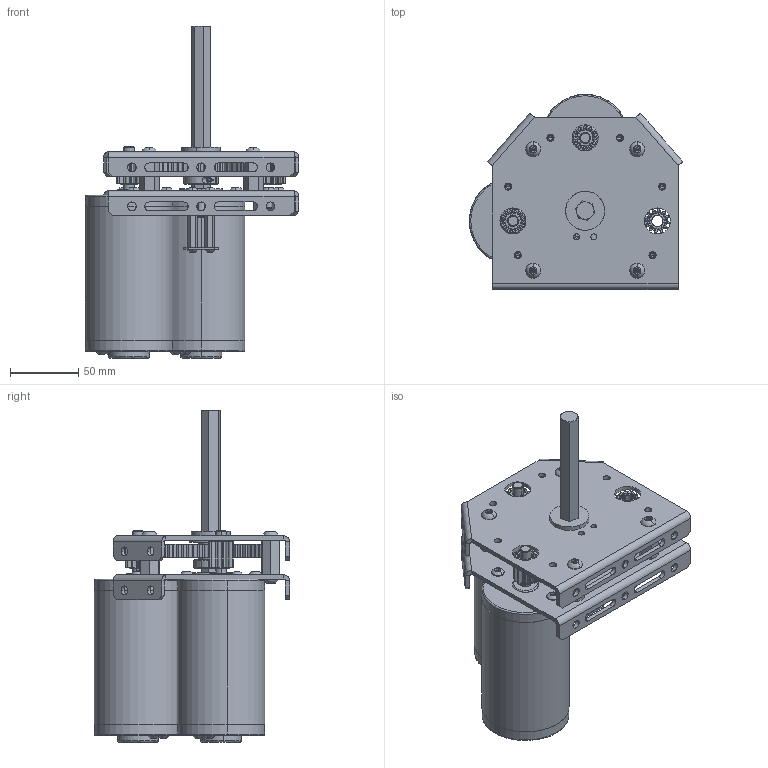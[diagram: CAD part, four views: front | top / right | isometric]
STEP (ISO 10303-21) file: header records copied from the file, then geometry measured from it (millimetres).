
FILE_DESCRIPTION (( 'STEP AP203' ), '1' );
FILE_NAME ('217-2748.20121217.STEP', '2012-12-17T15:44:25', ( 'svradm' ), ( 'Microsoft' ), 'SwSTEP 2.0', 'SolidWorks 2012', '' );
FILE_SCHEMA (( 'CONFIG_CONTROL_DESIGN' ));
Length unit declared in the file: inch
Products named in the file (16): 217-2748.20121217; 217-2716-001_72t; SBS1_SBS0832-0500SS; 217-2428-005 Rev1; 217-2745-002 Rev1; 217-2614-002_98430A132; SBS1_SBS2520-0500SS; 217-2617-002 Rev1_91780A359; 217-2737 Rev1; 217-2614-001_12t; SBS1_SBS1032-0500ZC; 217-2454-004 Rev1; 217-2734; 217-2731; 217-2000 - CIM Motor; 217-2748-001 Rev1
Assembly tree (43 placements, depth 2):
  217-2748.20121217
    217-2748-001 Rev1  x2
    217-2000 - CIM Motor  x2
    217-2731
    217-2734
    217-2454-004 Rev1
    SBS1_SBS1032-0500ZC  x6
    217-2614-001_12t  x3
    217-2737 Rev1
    217-2617-002 Rev1_91780A359  x4
    SBS1_SBS2520-0500SS  x8
    217-2614-002_98430A132  x6
    217-2745-002 Rev1
    217-2428-005 Rev1  x2
    SBS1_SBS0832-0500SS  x4
    217-2716-001_72t
Bounding box: 156.33 x 143.15 x 243.24 mm (x, y, z)
Volume: 974474.7 mm3; surface area: 201744.7 mm2
Topology: 44 solids, 44 shells, 1880 faces, 4908 edges, 3144 vertices
Faces by surface type: cylinder 875, plane 585, cone 254, bspline 130, sphere 36
Entity records: 54025 total; most frequent: CARTESIAN_POINT 31860, ORIENTED_EDGE 4292, DIRECTION 3892, EDGE_CURVE 2146, AXIS2_PLACEMENT_3D 1498, VERTEX_POINT 1397, EDGE_LOOP 941, LINE 896
